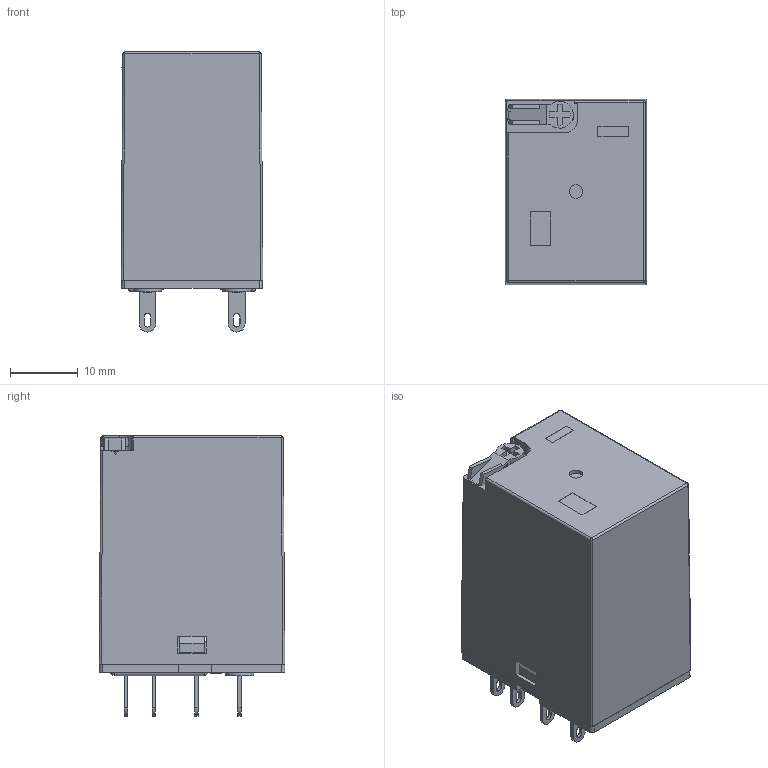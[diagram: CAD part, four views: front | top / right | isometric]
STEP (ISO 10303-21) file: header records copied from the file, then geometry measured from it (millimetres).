
FILE_DESCRIPTION(/* description */ (''),/* implementation_level */ '2;1');
FILE_NAME(/* name */ '18ft-2pl.stp',/* time_stamp */ '2024-07-15T12:41:04+08:00',/* author */ (''),/* organization */ (''),/* preprocessor_version */ 'ST-DEVELOPER v11',/* originating_system */ 'SIEMENS UGS NX 6.0',/* authorisation */ '');
FILE_SCHEMA (('CONFIG_CONTROL_DESIGN'));
Length unit declared in the file: millimetre
Products named in the file (1): 18ft-2pl
Bounding box: 21 x 27.5 x 41.5 mm (x, y, z)
Volume: 6174.1 mm3; surface area: 10444.4 mm2
Topology: 13 solids, 13 shells, 742 faces, 1981 edges, 1303 vertices
Faces by surface type: plane 586, cylinder 111, extrusion 24, sphere 13, bspline 4, torus 2, cone 2
Full cylindrical faces by diameter (mm): 1.5 x4, 2 x1, 2.4 x1, 3 x1, 4 x1, 4.2 x2, 6.5 x1
Entity records: 23467 total; most frequent: CARTESIAN_POINT 4825, ORIENTED_EDGE 3898, DIRECTION 3597, EDGE_CURVE 1949, VECTOR 1667, LINE 1643, VERTEX_POINT 1295, AXIS2_PLACEMENT_3D 965
